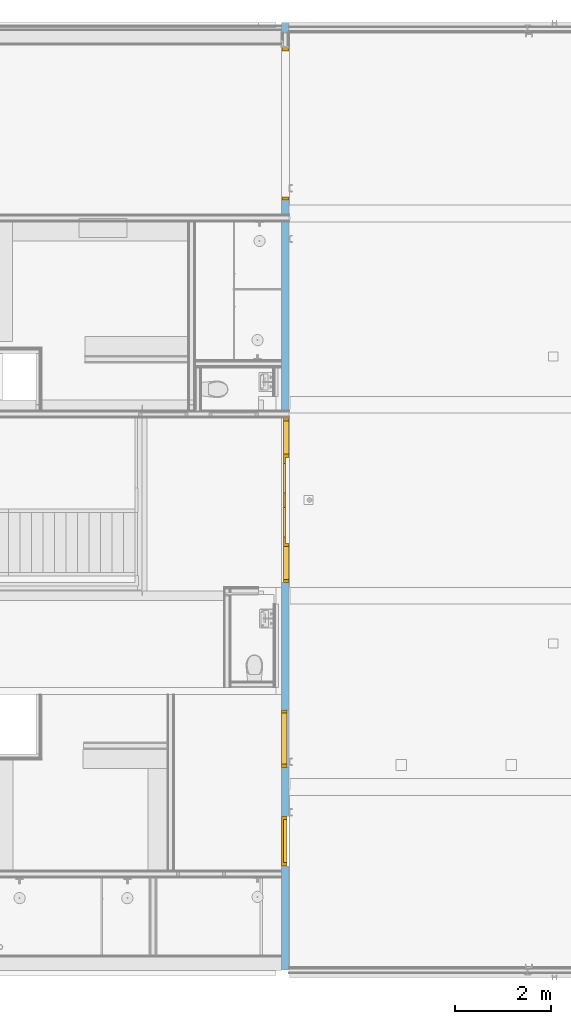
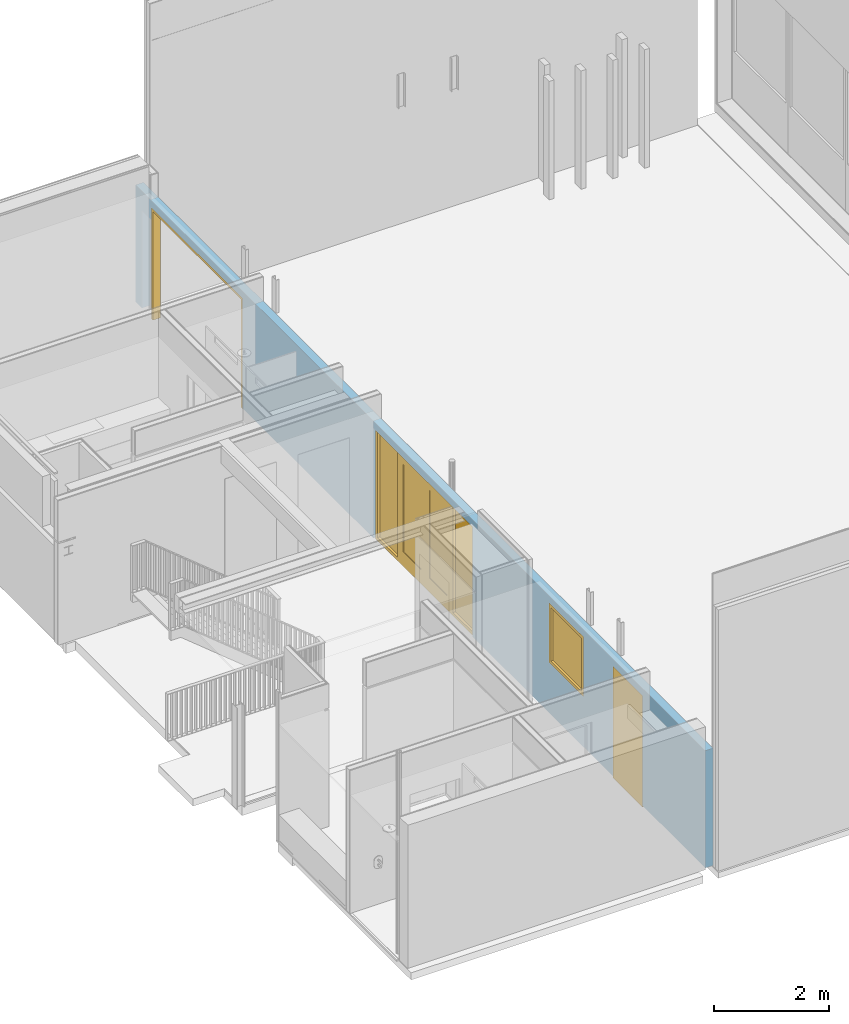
# One storey, part 8 of 35: 3 doors, 1 window, 5 openings, plus 1 element that does not belong to this part.
"""IFC2X3 building model written with IfcOpenShell, lengths in millimetres."""

from ifc_helpers import new_model, entity, si_unit, converted_unit, derived_unit, money_unit, direction, frame, origin_with_axes, place, context, subcontext, project, spatial, open_shell, faceted_brep, surface_model, material, type_object, element, fill, save


model = new_model("IFC2X3")

# Units and contexts
model_context = context("Model", 3, precision=0.01, world=origin_with_axes(), true_north=direction((0.0, 1.0)))
body_context = subcontext(model_context, "Body", "Model", "MODEL_VIEW")
ifc_project = project(units=[si_unit("LENGTHUNIT", "METRE", prefix="MILLI"), si_unit("AREAUNIT", "SQUARE_METRE"), si_unit("VOLUMEUNIT", "CUBIC_METRE"), converted_unit("PLANEANGLEUNIT", "DEGREE", entity("IfcPlaneAngleMeasure", 0.0174532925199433), si_unit("PLANEANGLEUNIT", "RADIAN"), dimensions=[0, 0, 0, 0, 0, 0, 0]), money_unit("EUR"), converted_unit("TIMEUNIT", "Year", entity("IfcTimeMeasure", 31557600.0), si_unit("TIMEUNIT", "SECOND"), dimensions=[0, 0, 1, 0, 0, 0, 0]), si_unit("MASSUNIT", "GRAM", prefix="KILO"), si_unit("THERMODYNAMICTEMPERATUREUNIT", "DEGREE_CELSIUS"), si_unit("LUMINOUSINTENSITYUNIT", "LUMEN"), si_unit("ENERGYUNIT", "JOULE", prefix="MEGA"), derived_unit("THERMALCONDUCTANCEUNIT", [(si_unit("POWERUNIT", "WATT"), 1), (si_unit("LENGTHUNIT", "METRE"), -1), (si_unit("THERMODYNAMICTEMPERATUREUNIT", "KELVIN"), -1)]), derived_unit("SPECIFICHEATCAPACITYUNIT", [(si_unit("ENERGYUNIT", "JOULE"), 1), (si_unit("MASSUNIT", "GRAM", prefix="KILO"), -1), (si_unit("THERMODYNAMICTEMPERATUREUNIT", "KELVIN"), -1)]), derived_unit("MASSDENSITYUNIT", [(si_unit("MASSUNIT", "GRAM", prefix="KILO"), 1), (si_unit("VOLUMEUNIT", "CUBIC_METRE"), -1)])], contexts=[model_context])

# Site, building, storey
site_placement = place(None, origin_with_axes())
site = spatial("IfcSite", under=ifc_project, at=site_placement, Name="<site naam>", CompositionType="ELEMENT")
building_placement = place(site_placement, origin_with_axes())
building = spatial("IfcBuilding", under=site, at=building_placement, Name="<Naam gebouw>", CompositionType="ELEMENT")
storey_placement = place(building_placement, frame((0.0, 0.0, 6345.0), z_axis=(0.0, 0.0, 1.0), x_axis=(1.0, 0.0, 0.0)))
storey = spatial("IfcBuildingStorey", under=building, at=storey_placement, Name="02 2e tussenverdieping", CompositionType="ELEMENT", Elevation=6345.0)

# Wall, openings, doors, window
ifc_material = material(Name="beton")
wall_type = type_object("IfcWallType", Name="beton 160", PredefinedType="NOTDEFINED")
wall_placement = place(storey_placement, frame((58317.78284470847, 20000.00000000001, 0.0), z_axis=(0.0, 0.0, 1.0), x_axis=(0.0, -1.0, 0.0)))
wall = element("IfcWall", 1, at=wall_placement, inside=storey, type_object=wall_type, material=ifc_material, Name="22_Binnenwand_beton", context=body_context, shape_type="Brep", body=[
    faceted_brep([(0.0, 0.0, 2517.500000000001), (19825.0, 0.0, 2517.500000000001), (19825.0, 0.0, 30.00000000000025), (0.0, 0.0, 30.00000000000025), (0.0, -159.9999999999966, 2517.500000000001), (19825.0, -160.0000000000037, 2517.500000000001), (19825.0, -160.0000000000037, 30.00000000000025), (0.0, -159.9999999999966, 30.00000000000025)], [[[0, 1, 2, 3]], [[4, 5, 1, 0]], [[1, 5, 6, 2]], [[2, 6, 7, 3]], [[4, 0, 3, 7]], [[5, 4, 7, 6]]]),
])
opening_1_placement = place(wall_placement, frame((14989.99999999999, 0.0, 1100.0), z_axis=(0.0, 0.0, 1.0), x_axis=(1.0, 0.0, 0.0)))
opening_1 = element("IfcOpeningElement", 2, at=opening_1_placement, cuts=wall, Name="22_BI-E-21_305", context=body_context, shape_type="Brep", body=[
    faceted_brep([(599.9999999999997, 1.000000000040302, 1267.0), (599.9999999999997, 1.000000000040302, 0.0), (-599.9999999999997, 1.000000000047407, 0.0), (-599.9999999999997, 1.000000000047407, 1267.0), (599.9999999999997, -161.0000000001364, 1267.0), (599.9999999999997, -161.0000000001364, 0.0), (-599.9999999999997, -161.0000000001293, 0.0), (-599.9999999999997, -161.0000000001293, 1267.0)], [[[0, 1, 2, 3]], [[4, 5, 1, 0]], [[5, 6, 2, 1]], [[6, 7, 3, 2]], [[7, 4, 0, 3]], [[6, 5, 4, 7]]]),
])
opening_2_placement = place(wall_placement, frame((9999.999999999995, 0.0, 0.0), z_axis=(0.0, 0.0, 1.0), x_axis=(1.0, 0.0, 0.0)))
opening_2 = element("IfcOpeningElement", 3, at=opening_2_placement, cuts=wall, Name="22_BI-D-05_305", context=body_context, shape_type="Brep", body=[
    faceted_brep([(-1724.999999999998, -160.9999999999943, 2367.0), (-1724.999999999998, -160.9999999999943, 0.0), (1724.999999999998, -160.9999999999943, 0.0), (1724.999999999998, -160.9999999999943, 2367.0), (-1724.999999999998, 0.9999999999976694, 2367.0), (-1724.999999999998, 0.9999999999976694, 0.0), (1724.999999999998, 0.9999999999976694, 0.0), (1724.999999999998, 0.9999999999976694, 2367.0)], [[[0, 1, 2, 3]], [[4, 5, 1, 0]], [[5, 6, 2, 1]], [[6, 7, 3, 2]], [[7, 4, 0, 3]], [[6, 5, 4, 7]]]),
])
opening_3_placement = place(wall_placement, frame((1968.213274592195, 0.0, 0.0), z_axis=(0.0, 0.0, 1.0), x_axis=(1.0, 0.0, 0.0)))
element("IfcOpeningElement", 4, at=opening_3_placement, cuts=wall, Name="22__305", context=body_context, shape_type="Brep", body=[
    faceted_brep([(-1750.0, -160.9999999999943, 2100.0), (-1750.0, -160.9999999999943, 0.0), (1750.0, -161.0000000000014, 0.0), (1750.0, -161.0000000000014, 2100.0), (-1750.0, 1.000000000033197, 2100.0), (-1750.0, 1.000000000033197, 0.0), (1750.0, 1.000000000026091, 0.0), (1750.0, 1.000000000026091, 2100.0)], [[[0, 1, 2, 3]], [[4, 5, 1, 0]], [[5, 6, 2, 1]], [[6, 7, 3, 2]], [[7, 4, 0, 3]], [[6, 5, 4, 7]]]),
])
opening_4_placement = place(wall_placement, frame((17133.0, 0.0, 0.0), z_axis=(0.0, 0.0, 1.0), x_axis=(1.0, 0.0, 0.0)))
opening_4 = element("IfcOpeningElement", 5, at=opening_4_placement, cuts=wall, Name="22_BI-A-05_305", context=body_context, shape_type="Brep", body=[
    faceted_brep([(516.9999999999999, 1.000000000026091, 2367.0), (516.9999999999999, 1.000000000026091, 0.0), (-516.9999999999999, 1.000000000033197, 0.0), (-516.9999999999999, 1.000000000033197, 2367.0), (516.9999999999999, -161.0000000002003, 2367.0), (516.9999999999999, -161.0000000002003, 0.0), (-516.9999999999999, -161.0000000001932, 0.0), (-516.9999999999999, -161.0000000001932, 2367.0)], [[[0, 1, 2, 3]], [[4, 5, 1, 0]], [[5, 6, 2, 1]], [[6, 7, 3, 2]], [[7, 4, 0, 3]], [[6, 5, 4, 7]]]),
])
opening_5_placement = place(wall_placement, frame((2124.106706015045, 0.0, 0.0), z_axis=(0.0, 0.0, 1.0), x_axis=(1.0, 0.0, 0.0)))
opening_5 = element("IfcOpeningElement", 6, at=opening_5_placement, cuts=wall, Name="22_BI-H-03_305", context=body_context, shape_type="Brep", body=[
    faceted_brep([(-1594.10656857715, -160.9999999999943, 2367.0), (-1594.10656857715, -160.9999999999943, 0.0), (1594.10656857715, -161.0000000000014, 0.0), (1594.10656857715, -161.0000000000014, 2367.0), (-1594.10656857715, 0.9999999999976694, 2367.0), (-1594.10656857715, 0.9999999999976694, 0.0), (1594.10656857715, 0.999999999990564, 0.0), (1594.10656857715, 0.999999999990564, 2367.0)], [[[0, 1, 2, 3]], [[4, 5, 1, 0]], [[5, 6, 2, 1]], [[6, 7, 3, 2]], [[7, 4, 0, 3]], [[6, 5, 4, 7]]]),
])
door_style_1 = type_object("IfcDoorStyle", Name="D1 27", ConstructionType="NOTDEFINED", OperationType="NOTDEFINED", ParameterTakesPrecedence=False, Sizeable=False)
door_1_placement = place(opening_5_placement, frame((-1527.10656857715, 0.0, 0.0), z_axis=(0.0, 0.0, 1.0), x_axis=(1.0, 0.0, 0.0)))
door_1 = element("IfcDoor", 7, at=door_1_placement, inside=storey, type_object=door_style_1, Name="22_BI-H-03_305", ObjectType="DOOR", OverallHeight=2367.0, OverallWidth=3188.21, context=body_context, shape_type="Brep", body=[
    faceted_brep([(3121.2131371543, 0.0, 0.0), (3121.2131371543, -149.9999999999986, 0.0), (3054.213137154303, -149.9999999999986, 0.0), (3054.213137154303, 0.0, 0.0), (3121.2131371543, 0.0, 2300.0), (3121.2131371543, -149.9999999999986, 2300.0), (3054.213137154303, -149.9999999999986, 2300.0), (3054.213137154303, 0.0, 2300.0)], [[[0, 1, 2, 3]], [[4, 5, 1, 0]], [[1, 5, 6, 2]], [[3, 2, 6, 7]], [[0, 3, 7, 4]], [[7, 6, 5, 4]]]),
    faceted_brep([(-67.00000000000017, 0.0, 0.0), (-67.00000000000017, -149.9999999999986, 0.0), (-67.00000000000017, -149.9999999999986, 2300.0), (-67.00000000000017, 0.0, 2300.0), (0.0, 0.0, 0.0), (0.0, -149.9999999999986, 0.0), (0.0, -149.9999999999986, 2300.0), (0.0, 0.0, 2300.0)], [[[0, 1, 2, 3]], [[4, 5, 1, 0]], [[1, 5, 6, 2]], [[3, 2, 6, 7]], [[0, 3, 7, 4]], [[7, 6, 5, 4]]]),
    faceted_brep([(3121.2131371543, 0.0, 2367.0), (3121.2131371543, -149.9999999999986, 2367.0), (3121.2131371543, -149.9999999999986, 2300.0), (3121.2131371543, 0.0, 2300.0), (-67.00000000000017, 0.0, 2367.0), (-67.00000000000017, -149.9999999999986, 2367.0), (-67.00000000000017, -149.9999999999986, 2300.0), (0.0, -149.9999999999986, 2300.0), (3054.213137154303, -149.9999999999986, 2300.0), (3054.213137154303, 0.0, 2300.0), (0.0, 0.0, 2300.0), (-67.00000000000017, 0.0, 2300.0)], [[[0, 1, 2, 3]], [[4, 5, 1, 0]], [[1, 5, 6, 7, 8, 2]], [[3, 2, 8, 9]], [[0, 3, 9, 10, 11, 4]], [[11, 6, 5, 4]], [[10, 7, 6, 11]], [[9, 8, 7, 10]]]),
])
fill(opening_5, door_1)
window_style = type_object("IfcWindowStyle", Name="R1 27", ConstructionType="NOTDEFINED", OperationType="SINGLE_PANEL", ParameterTakesPrecedence=False, Sizeable=False)
window_placement = place(opening_1_placement, frame((599.9999999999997, 0.0, 0.0), z_axis=(0.0, 0.0, 1.0), x_axis=(-1.0, 0.0, 0.0)))
window = element("IfcWindow", 8, at=window_placement, inside=storey, type_object=window_style, Name="22_BI-E-21_305", ObjectType="WINDOW", OverallHeight=1267.0, OverallWidth=1200.0, context=body_context, shape_type="SurfaceModel", body=[
    faceted_brep([(67.00000000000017, 45.99999999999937, 1199.999999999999), (67.00000000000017, 159.9999999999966, 1199.999999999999), (0.0, 159.9999999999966, 1199.999999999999), (0.0, 45.99999999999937, 1199.999999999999), (67.00000000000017, 45.99999999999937, 67.00000000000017), (67.00000000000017, 159.9999999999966, 67.00000000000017), (0.0, 159.9999999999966, 67.00000000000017), (0.0, 45.99999999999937, 67.00000000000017)], [[[0, 1, 2, 3]], [[4, 5, 1, 0]], [[1, 5, 6, 2]], [[3, 2, 6, 7]], [[0, 3, 7, 4]], [[7, 6, 5, 4]]]),
    faceted_brep([(1132.999999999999, 45.99999999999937, 67.00000000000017), (1132.999999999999, 159.9999999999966, 67.00000000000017), (1199.999999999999, 159.9999999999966, 67.00000000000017), (1199.999999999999, 45.99999999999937, 67.00000000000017), (1132.999999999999, 45.99999999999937, 1199.999999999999), (1132.999999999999, 159.9999999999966, 1199.999999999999), (1199.999999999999, 159.9999999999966, 1199.999999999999), (1199.999999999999, 45.99999999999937, 1199.999999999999)], [[[0, 1, 2, 3]], [[4, 5, 1, 0]], [[1, 5, 6, 2]], [[3, 2, 6, 7]], [[0, 3, 7, 4]], [[7, 6, 5, 4]]]),
    faceted_brep([(67.00000000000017, 45.99999999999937, 67.00000000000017), (67.00000000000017, 159.9999999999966, 67.00000000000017), (0.0, 159.9999999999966, 67.00000000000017), (0.0, 45.99999999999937, 67.00000000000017), (1132.999999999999, 45.99999999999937, 67.00000000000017), (1132.999999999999, 159.9999999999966, 67.00000000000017), (1199.999999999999, 159.9999999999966, 67.00000000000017), (1199.999999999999, 159.9999999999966, 0.0), (0.0, 159.9999999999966, 0.0), (0.0, 45.99999999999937, 0.0), (1199.999999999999, 45.99999999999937, 0.0), (1199.999999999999, 45.99999999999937, 67.00000000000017)], [[[0, 1, 2, 3]], [[4, 5, 1, 0]], [[1, 5, 6, 7, 8, 2]], [[3, 2, 8, 9]], [[0, 3, 9, 10, 11, 4]], [[11, 6, 5, 4]], [[10, 7, 6, 11]], [[9, 8, 7, 10]]]),
    faceted_brep([(1132.999999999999, 45.99999999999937, 1199.999999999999), (1132.999999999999, 159.9999999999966, 1199.999999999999), (1199.999999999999, 159.9999999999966, 1199.999999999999), (1199.999999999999, 45.99999999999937, 1199.999999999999), (67.00000000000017, 45.99999999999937, 1199.999999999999), (67.00000000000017, 159.9999999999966, 1199.999999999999), (0.0, 159.9999999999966, 1199.999999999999), (0.0, 159.9999999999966, 1267.0), (1199.999999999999, 159.9999999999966, 1267.0), (1199.999999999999, 45.99999999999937, 1267.0), (0.0, 45.99999999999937, 1267.0), (0.0, 45.99999999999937, 1199.999999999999)], [[[0, 1, 2, 3]], [[4, 5, 1, 0]], [[1, 5, 6, 7, 8, 2]], [[3, 2, 8, 9]], [[0, 3, 9, 10, 11, 4]], [[11, 6, 5, 4]], [[10, 7, 6, 11]], [[9, 8, 7, 10]]]),
    surface_model("IfcShellBasedSurfaceModel", [(67.00000000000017, 95.99999999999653, 67.00000000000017), (1132.999999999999, 95.99999999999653, 67.00000000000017), (1132.999999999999, 95.99999999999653, 1199.999999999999), (67.00000000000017, 95.99999999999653, 1199.999999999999)], [open_shell([[[0, 1, 2, 3]]])]),
    surface_model("IfcShellBasedSurfaceModel", [(67.00000000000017, 115.9999999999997, 67.00000000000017), (67.00000000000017, 115.9999999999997, 1199.999999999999), (1132.999999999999, 115.9999999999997, 1199.999999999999), (1132.999999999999, 115.9999999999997, 67.00000000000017)], [open_shell([[[0, 1, 2, 3]]])]),
])
fill(opening_1, window)
door_style_2 = type_object("IfcDoorStyle", Name="D2 zl2 27", ConstructionType="NOTDEFINED", OperationType="USERDEFINED", ParameterTakesPrecedence=False, Sizeable=False)
door_2_placement = place(opening_2_placement, frame((1724.999999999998, 0.0, 0.0), z_axis=(0.0, 0.0, 1.0), x_axis=(-1.0, 0.0, 0.0)))
door_2 = element("IfcDoor", 9, at=door_2_placement, inside=storey, type_object=door_style_2, Name="22_BI-D-05_305", ObjectType="DOOR", OverallHeight=2367.0, OverallWidth=3450.0, context=body_context, shape_type="SurfaceModel", body=[
    faceted_brep([(0.0, 113.9999999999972, 0.0), (67.00000000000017, 113.9999999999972, 0.0), (67.00000000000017, 0.0, 0.0), (0.0, 0.0, 0.0), (0.0, 113.9999999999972, 2300.0), (67.00000000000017, 113.9999999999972, 2300.0), (67.00000000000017, 113.9999999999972, 67.00000000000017), (67.00000000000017, 0.0, 67.00000000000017), (67.00000000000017, 0.0, 2300.0), (0.0, 0.0, 2300.0)], [[[0, 1, 2, 3]], [[0, 4, 5, 6, 1]], [[1, 6, 7, 2]], [[3, 2, 7, 8, 9]], [[4, 0, 3, 9]], [[5, 4, 9, 8]], [[6, 5, 8, 7]]]),
    faceted_brep([(824.9999999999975, 73.99999999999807, 0.0), (824.9999999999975, 73.99999999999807, 2300.0), (824.9999999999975, 0.0, 2300.0), (824.9999999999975, 0.0, 0.0), (807.9999999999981, 73.99999999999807, 2300.0), (807.9999999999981, 73.99999999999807, 0.0), (807.9999999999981, 113.9999999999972, 2300.0), (757.9999999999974, 113.9999999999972, 2300.0), (757.9999999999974, 0.0, 2300.0), (757.9999999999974, 0.0, 0.0), (757.9999999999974, 0.0, 67.00000000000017), (757.9999999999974, 113.9999999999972, 0.0), (807.9999999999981, 113.9999999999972, 0.0), (757.9999999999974, 113.9999999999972, 67.00000000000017)], [[[0, 1, 2, 3]], [[4, 1, 0, 5]], [[4, 6, 7, 8, 2, 1]], [[9, 3, 2, 8, 10]], [[5, 0, 3, 9, 11, 12]], [[6, 4, 5, 12]], [[6, 12, 11, 13, 7]], [[13, 10, 8, 7]], [[11, 9, 10, 13]]]),
    faceted_brep([(67.00000000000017, 113.9999999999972, 67.00000000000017), (67.00000000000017, 113.9999999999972, 0.0), (67.00000000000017, 0.0, 0.0), (67.00000000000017, 0.0, 67.00000000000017), (757.9999999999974, 113.9999999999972, 67.00000000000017), (757.9999999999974, 113.9999999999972, 0.0), (757.9999999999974, 0.0, 0.0), (757.9999999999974, 0.0, 67.00000000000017)], [[[0, 1, 2, 3]], [[0, 4, 5, 1]], [[1, 5, 6, 2]], [[3, 2, 6, 7]], [[4, 0, 3, 7]], [[5, 4, 7, 6]]]),
    faceted_brep([(3449.999999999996, 113.9999999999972, 0.0), (3449.999999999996, 113.9999999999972, 2300.0), (3449.999999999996, 0.0, 2300.0), (3449.999999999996, 0.0, 0.0), (3382.999999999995, 113.9999999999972, 0.0), (3382.999999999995, 113.9999999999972, 67.00000000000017), (3382.999999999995, 113.9999999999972, 2300.0), (3382.999999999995, 0.0, 2300.0), (3382.999999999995, 0.0, 67.00000000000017), (3382.999999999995, 0.0, 0.0)], [[[0, 1, 2, 3]], [[0, 4, 5, 6, 1]], [[1, 6, 7, 2]], [[3, 2, 7, 8, 9]], [[4, 0, 3, 9]], [[5, 4, 9, 8]], [[6, 5, 8, 7]]]),
    faceted_brep([(2641.999999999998, 73.99999999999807, 2300.0), (2624.999999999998, 73.99999999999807, 2300.0), (2624.999999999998, 0.0, 2300.0), (2691.999999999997, 0.0, 2300.0), (2691.999999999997, 113.9999999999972, 2300.0), (2641.999999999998, 113.9999999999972, 2300.0), (2641.999999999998, 73.99999999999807, 0.0), (2624.999999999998, 73.99999999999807, 0.0), (2624.999999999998, 0.0, 0.0), (2691.999999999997, 0.0, 0.0), (2691.999999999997, 0.0, 67.00000000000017), (2691.999999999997, 113.9999999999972, 67.00000000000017), (2641.999999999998, 113.9999999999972, 0.0), (2691.999999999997, 113.9999999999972, 0.0)], [[[0, 1, 2, 3, 4, 5]], [[1, 0, 6, 7]], [[1, 7, 8, 2]], [[8, 9, 10, 3, 2]], [[4, 3, 10, 11]], [[12, 5, 4, 11, 13]], [[0, 5, 12, 6]], [[6, 12, 13, 9, 8, 7]], [[11, 10, 9, 13]]]),
    faceted_brep([(2691.999999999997, 113.9999999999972, 67.00000000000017), (2691.999999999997, 113.9999999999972, 0.0), (2691.999999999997, 0.0, 0.0), (2691.999999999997, 0.0, 67.00000000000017), (3382.999999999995, 113.9999999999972, 67.00000000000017), (3382.999999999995, 113.9999999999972, 0.0), (3382.999999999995, 0.0, 0.0), (3382.999999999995, 0.0, 67.00000000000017)], [[[0, 1, 2, 3]], [[0, 4, 5, 1]], [[1, 5, 6, 2]], [[3, 2, 6, 7]], [[4, 0, 3, 7]], [[5, 4, 7, 6]]]),
    faceted_brep([(807.9999999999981, 113.9999999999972, 2316.999999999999), (807.9999999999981, 113.9999999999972, 2300.0), (757.9999999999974, 113.9999999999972, 2300.0), (67.00000000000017, 113.9999999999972, 2300.0), (0.0, 113.9999999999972, 2300.0), (0.0, 113.9999999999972, 2367.0), (3449.999999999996, 113.9999999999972, 2367.0), (3449.999999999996, 113.9999999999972, 2300.0), (3382.999999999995, 113.9999999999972, 2300.0), (2691.999999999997, 113.9999999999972, 2300.0), (2641.999999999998, 113.9999999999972, 2300.0), (2641.999999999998, 113.9999999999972, 2316.999999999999), (807.9999999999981, 73.99999999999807, 2316.999999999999), (807.9999999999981, 73.99999999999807, 2300.0), (2624.999999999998, 73.99999999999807, 2300.0), (2624.999999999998, 0.0, 2300.0), (824.9999999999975, 0.0, 2300.0), (757.9999999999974, 0.0, 2300.0), (67.00000000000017, 0.0, 2300.0), (0.0, 0.0, 2300.0), (0.0, 0.0, 2367.0), (3449.999999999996, 0.0, 2367.0), (3449.999999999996, 0.0, 2300.0), (3382.999999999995, 0.0, 2300.0), (2641.999999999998, 73.99999999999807, 2300.0), (2691.999999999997, 0.0, 2300.0), (2641.999999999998, 73.99999999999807, 2316.999999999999)], [[[0, 1, 2, 3, 4, 5, 6, 7, 8, 9, 10, 11]], [[1, 0, 12, 13]], [[13, 14, 15, 16, 17, 2, 1]], [[2, 17, 18, 3]], [[3, 18, 19, 4]], [[4, 19, 20, 5]], [[5, 20, 21, 6]], [[6, 21, 22, 7]], [[7, 22, 23, 8]], [[24, 10, 9, 8, 23, 25, 15, 14]], [[11, 10, 24, 26]], [[0, 11, 26, 12]], [[24, 14, 13, 12, 26]], [[23, 22, 21, 20, 19, 18, 17, 16, 15, 25]]]),
    faceted_brep([(2641.999999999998, 113.9999999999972, 299.9999999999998), (2641.999999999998, 73.99999999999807, 299.9999999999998), (2491.999999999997, 73.99999999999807, 299.9999999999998), (2491.999999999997, 113.9999999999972, 299.9999999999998), (2641.999999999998, 113.9999999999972, 2167.000000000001), (2641.999999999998, 73.99999999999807, 2167.000000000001), (2491.999999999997, 73.99999999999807, 2167.000000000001), (2491.999999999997, 113.9999999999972, 2167.000000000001)], [[[0, 1, 2, 3]], [[4, 5, 1, 0]], [[1, 5, 6, 2]], [[3, 2, 6, 7]], [[0, 3, 7, 4]], [[7, 6, 5, 4]]]),
    faceted_brep([(1724.999999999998, 113.9999999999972, 299.9999999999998), (1724.999999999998, 73.99999999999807, 299.9999999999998), (1724.999999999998, 73.99999999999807, 2167.000000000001), (1724.999999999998, 113.9999999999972, 2167.000000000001), (1874.999999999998, 113.9999999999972, 299.9999999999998), (1874.999999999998, 73.99999999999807, 299.9999999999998), (1874.999999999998, 73.99999999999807, 2167.000000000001), (1874.999999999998, 113.9999999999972, 2167.000000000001)], [[[0, 1, 2, 3]], [[4, 5, 1, 0]], [[1, 5, 6, 2]], [[3, 2, 6, 7]], [[0, 3, 7, 4]], [[7, 6, 5, 4]]]),
    faceted_brep([(2641.999999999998, 113.9999999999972, 0.0), (2641.999999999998, 73.99999999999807, 0.0), (1724.999999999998, 73.99999999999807, 0.0), (1724.999999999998, 113.9999999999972, 0.0), (2641.999999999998, 113.9999999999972, 299.9999999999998), (2641.999999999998, 73.99999999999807, 299.9999999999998), (2491.999999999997, 73.99999999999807, 299.9999999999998), (1874.999999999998, 73.99999999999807, 299.9999999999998), (1724.999999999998, 73.99999999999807, 299.9999999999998), (1724.999999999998, 113.9999999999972, 299.9999999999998), (1874.999999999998, 113.9999999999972, 299.9999999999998), (2491.999999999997, 113.9999999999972, 299.9999999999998)], [[[0, 1, 2, 3]], [[4, 5, 1, 0]], [[1, 5, 6, 7, 8, 2]], [[3, 2, 8, 9]], [[0, 3, 9, 10, 11, 4]], [[11, 6, 5, 4]], [[10, 7, 6, 11]], [[9, 8, 7, 10]]]),
    faceted_brep([(2641.999999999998, 113.9999999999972, 2316.999999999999), (2641.999999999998, 73.99999999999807, 2316.999999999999), (2641.999999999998, 73.99999999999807, 2167.000000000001), (2641.999999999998, 113.9999999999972, 2167.000000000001), (1724.999999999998, 113.9999999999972, 2316.999999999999), (1724.999999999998, 73.99999999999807, 2316.999999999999), (1724.999999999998, 73.99999999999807, 2167.000000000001), (1874.999999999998, 73.99999999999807, 2167.000000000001), (2491.999999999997, 73.99999999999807, 2167.000000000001), (2491.999999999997, 113.9999999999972, 2167.000000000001), (1874.999999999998, 113.9999999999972, 2167.000000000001), (1724.999999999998, 113.9999999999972, 2167.000000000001)], [[[0, 1, 2, 3]], [[4, 5, 1, 0]], [[1, 5, 6, 7, 8, 2]], [[3, 2, 8, 9]], [[0, 3, 9, 10, 11, 4]], [[11, 6, 5, 4]], [[10, 7, 6, 11]], [[9, 8, 7, 10]]]),
    surface_model("IfcShellBasedSurfaceModel", [(2491.999999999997, 99.99999999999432, 299.9999999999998), (1874.999999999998, 99.99999999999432, 299.9999999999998), (1874.999999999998, 99.99999999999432, 2167.000000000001), (2491.999999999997, 99.99999999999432, 2167.000000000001)], [open_shell([[[0, 1, 2, 3]]])]),
    surface_model("IfcShellBasedSurfaceModel", [(2491.999999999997, 87.99999999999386, 299.9999999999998), (2491.999999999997, 87.99999999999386, 2167.000000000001), (1874.999999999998, 87.99999999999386, 2167.000000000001), (1874.999999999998, 87.99999999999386, 299.9999999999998)], [open_shell([[[0, 1, 2, 3]]])]),
    faceted_brep([(807.9999999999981, 113.9999999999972, 299.9999999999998), (957.9999999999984, 113.9999999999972, 299.9999999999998), (957.9999999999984, 73.99999999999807, 299.9999999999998), (807.9999999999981, 73.99999999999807, 299.9999999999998), (807.9999999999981, 113.9999999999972, 2167.000000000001), (957.9999999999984, 113.9999999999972, 2167.000000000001), (957.9999999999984, 73.99999999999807, 2167.000000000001), (807.9999999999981, 73.99999999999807, 2167.000000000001)], [[[0, 1, 2, 3]], [[0, 4, 5, 1]], [[1, 5, 6, 2]], [[3, 2, 6, 7]], [[4, 0, 3, 7]], [[5, 4, 7, 6]]]),
    faceted_brep([(1724.999999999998, 113.9999999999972, 299.9999999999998), (1724.999999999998, 113.9999999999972, 2167.000000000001), (1724.999999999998, 73.99999999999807, 2167.000000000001), (1724.999999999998, 73.99999999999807, 299.9999999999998), (1574.999999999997, 113.9999999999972, 299.9999999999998), (1574.999999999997, 113.9999999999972, 2167.000000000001), (1574.999999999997, 73.99999999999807, 2167.000000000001), (1574.999999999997, 73.99999999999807, 299.9999999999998)], [[[0, 1, 2, 3]], [[0, 4, 5, 1]], [[1, 5, 6, 2]], [[3, 2, 6, 7]], [[4, 0, 3, 7]], [[5, 4, 7, 6]]]),
    faceted_brep([(807.9999999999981, 113.9999999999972, 0.0), (1724.999999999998, 113.9999999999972, 0.0), (1724.999999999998, 73.99999999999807, 0.0), (807.9999999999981, 73.99999999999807, 0.0), (807.9999999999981, 113.9999999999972, 299.9999999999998), (957.9999999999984, 113.9999999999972, 299.9999999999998), (1574.999999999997, 113.9999999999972, 299.9999999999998), (1724.999999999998, 113.9999999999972, 299.9999999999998), (1724.999999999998, 73.99999999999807, 299.9999999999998), (1574.999999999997, 73.99999999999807, 299.9999999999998), (957.9999999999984, 73.99999999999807, 299.9999999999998), (807.9999999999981, 73.99999999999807, 299.9999999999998)], [[[0, 1, 2, 3]], [[0, 4, 5, 6, 7, 1]], [[1, 7, 8, 2]], [[3, 2, 8, 9, 10, 11]], [[4, 0, 3, 11]], [[5, 4, 11, 10]], [[6, 5, 10, 9]], [[7, 6, 9, 8]]]),
    faceted_brep([(807.9999999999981, 113.9999999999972, 2316.999999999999), (807.9999999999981, 113.9999999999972, 2167.000000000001), (807.9999999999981, 73.99999999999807, 2167.000000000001), (807.9999999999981, 73.99999999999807, 2316.999999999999), (1724.999999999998, 113.9999999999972, 2316.999999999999), (1724.999999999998, 113.9999999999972, 2167.000000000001), (1574.999999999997, 113.9999999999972, 2167.000000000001), (957.9999999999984, 113.9999999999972, 2167.000000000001), (957.9999999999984, 73.99999999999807, 2167.000000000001), (1574.999999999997, 73.99999999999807, 2167.000000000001), (1724.999999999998, 73.99999999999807, 2167.000000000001), (1724.999999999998, 73.99999999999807, 2316.999999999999)], [[[0, 1, 2, 3]], [[0, 4, 5, 6, 7, 1]], [[1, 7, 8, 2]], [[3, 2, 8, 9, 10, 11]], [[4, 0, 3, 11]], [[5, 4, 11, 10]], [[6, 5, 10, 9]], [[7, 6, 9, 8]]]),
    surface_model("IfcShellBasedSurfaceModel", [(957.9999999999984, 99.99999999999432, 299.9999999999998), (957.9999999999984, 99.99999999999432, 2167.000000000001), (1574.999999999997, 99.99999999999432, 2167.000000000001), (1574.999999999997, 99.99999999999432, 299.9999999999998)], [open_shell([[[0, 1, 2, 3]]])]),
    surface_model("IfcShellBasedSurfaceModel", [(957.9999999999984, 88.00000000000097, 299.9999999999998), (1574.999999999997, 87.99999999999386, 299.9999999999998), (1574.999999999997, 87.99999999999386, 2167.000000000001), (957.9999999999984, 87.99999999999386, 2167.000000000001)], [open_shell([[[0, 1, 2, 3]]])]),
    surface_model("IfcShellBasedSurfaceModel", [(67.00000000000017, 53.99999999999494, 67.00000000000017), (757.9999999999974, 53.99999999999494, 67.00000000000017), (757.9999999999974, 53.99999999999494, 2300.0), (67.00000000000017, 53.99999999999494, 2300.0)], [open_shell([[[0, 1, 2, 3]]])]),
    surface_model("IfcShellBasedSurfaceModel", [(67.00000000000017, 65.9999999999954, 67.00000000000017), (67.00000000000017, 65.9999999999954, 2300.0), (757.9999999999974, 65.9999999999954, 2300.0), (757.9999999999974, 65.9999999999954, 67.00000000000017)], [open_shell([[[0, 1, 2, 3]]])]),
    surface_model("IfcShellBasedSurfaceModel", [(2691.999999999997, 53.99999999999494, 67.00000000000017), (3382.999999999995, 53.99999999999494, 67.00000000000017), (3382.999999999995, 53.99999999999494, 2300.0), (2691.999999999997, 53.99999999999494, 2300.0)], [open_shell([[[0, 1, 2, 3]]])]),
    surface_model("IfcShellBasedSurfaceModel", [(2691.999999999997, 65.9999999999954, 67.00000000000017), (2691.999999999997, 65.9999999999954, 2300.0), (3382.999999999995, 65.9999999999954, 2300.0), (3382.999999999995, 65.9999999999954, 67.00000000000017)], [open_shell([[[0, 1, 2, 3]]])]),
])
fill(opening_2, door_2)
door_style_3 = type_object("IfcDoorStyle", Name="D1 27", ConstructionType="NOTDEFINED", OperationType="SINGLE_SWING_LEFT", ParameterTakesPrecedence=False, Sizeable=False)
door_3_placement = place(opening_4_placement, frame((450.0000000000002, 0.0, 0.0), z_axis=(0.0, 0.0, 1.0), x_axis=(-1.0, 0.0, 0.0)))
door_3 = element("IfcDoor", 10, at=door_3_placement, inside=storey, type_object=door_style_3, Name="22_BI-A-05_305", ObjectType="DOOR", OverallHeight=2367.0, OverallWidth=1034.0, context=body_context, shape_type="Brep", body=[
    faceted_brep([(-16.9999999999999, 119.9999999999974, 0.0), (0.0, 119.9999999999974, 0.0), (0.0, 119.9999999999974, 11.99999999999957), (-16.9999999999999, 119.9999999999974, 11.99999999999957), (917.0000000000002, 119.9999999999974, 0.0), (900.0000000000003, 119.9999999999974, 0.0), (900.0000000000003, 45.99999999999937, 0.0), (0.0, 45.99999999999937, 0.0), (0.0, 45.99999999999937, 11.99999999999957), (900.0000000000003, 45.99999999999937, 11.99999999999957), (900.0000000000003, 119.9999999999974, 11.99999999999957), (917.0000000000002, 119.9999999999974, 11.99999999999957)], [[[0, 1, 2, 3]], [[0, 4, 5, 6, 7, 1]], [[1, 7, 8, 2]], [[3, 2, 8, 9, 10, 11]], [[4, 0, 3, 11]], [[5, 4, 11, 10]], [[6, 5, 10, 9]], [[7, 6, 9, 8]]]),
    faceted_brep([(899.9999999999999, 119.9999999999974, 0.0), (900.0000000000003, 45.99999999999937, 0.0), (900.0000000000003, 45.99999999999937, 2300.0), (900.0000000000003, 119.9999999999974, 2300.0), (917.0000000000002, 119.9999999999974, 0.0), (917.0000000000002, 159.9999999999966, 0.0), (967.0000000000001, 159.9999999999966, 0.0), (967.0000000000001, 45.99999999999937, 0.0), (967.0000000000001, 45.99999999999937, 2300.0), (917.0000000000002, 119.9999999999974, 2300.0), (967.0000000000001, 159.9999999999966, 2300.0), (917.0000000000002, 159.9999999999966, 2300.0)], [[[0, 1, 2, 3]], [[4, 5, 6, 7, 1, 0]], [[1, 7, 8, 2]], [[9, 3, 2, 8, 10, 11]], [[9, 4, 0, 3]], [[11, 5, 4, 9]], [[11, 10, 6, 5]], [[6, 10, 8, 7]]]),
    faceted_brep([(-16.9999999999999, 119.9999999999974, 2300.0), (-16.9999999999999, 159.9999999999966, 2300.0), (-66.99999999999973, 159.9999999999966, 2300.0), (-66.99999999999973, 45.99999999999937, 2300.0), (0.0, 45.99999999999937, 2300.0), (0.0, 119.9999999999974, 2300.0), (-16.9999999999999, 119.9999999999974, 0.0), (-16.9999999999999, 159.9999999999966, 0.0), (-66.99999999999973, 159.9999999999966, 0.0), (-66.99999999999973, 45.99999999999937, 0.0), (0.0, 45.99999999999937, 0.0), (0.0, 119.9999999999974, 0.0)], [[[0, 1, 2, 3, 4, 5]], [[0, 6, 7, 1]], [[7, 8, 2, 1]], [[2, 8, 9, 3]], [[3, 9, 10, 4]], [[5, 4, 10, 11]], [[5, 11, 6, 0]], [[6, 11, 10, 9, 8, 7]]]),
    faceted_brep([(917.0000000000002, 159.9999999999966, 2316.999999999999), (-16.9999999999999, 159.9999999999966, 2316.999999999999), (-16.9999999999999, 159.9999999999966, 2300.0), (-66.99999999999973, 159.9999999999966, 2300.0), (-66.99999999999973, 159.9999999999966, 2367.0), (967.0000000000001, 159.9999999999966, 2367.0), (967.0000000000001, 159.9999999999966, 2300.0), (917.0000000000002, 159.9999999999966, 2300.0), (917.0000000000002, 119.9999999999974, 2316.999999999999), (-16.9999999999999, 119.9999999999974, 2316.999999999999), (-16.9999999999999, 119.9999999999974, 2300.0), (0.0, 119.9999999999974, 2300.0), (0.0, 45.99999999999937, 2300.0), (-66.99999999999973, 45.99999999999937, 2300.0), (-66.99999999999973, 45.99999999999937, 2367.0), (967.0000000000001, 45.99999999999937, 2367.0), (967.0000000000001, 45.99999999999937, 2300.0), (917.0000000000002, 119.9999999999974, 2300.0), (900.0000000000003, 45.99999999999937, 2300.0), (900.0000000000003, 119.9999999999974, 2300.0)], [[[0, 1, 2, 3, 4, 5, 6, 7]], [[0, 8, 9, 1]], [[1, 9, 10, 2]], [[10, 11, 12, 13, 3, 2]], [[4, 3, 13, 14]], [[5, 4, 14, 15]], [[6, 5, 15, 16]], [[17, 7, 6, 16, 18, 19]], [[7, 17, 8, 0]], [[10, 9, 8, 17, 19, 11]], [[19, 18, 12, 11]], [[12, 18, 16, 15, 14, 13]]]),
    faceted_brep([(-16.9999999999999, 159.9999999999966, 0.0), (917.0000000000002, 159.9999999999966, 0.0), (917.0000000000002, 119.9999999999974, 0.0), (-16.9999999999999, 119.9999999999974, 0.0), (-16.9999999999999, 159.9999999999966, 2316.999999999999), (917.0000000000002, 159.9999999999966, 2316.999999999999), (917.0000000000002, 119.9999999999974, 2316.999999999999), (-16.9999999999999, 119.9999999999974, 2316.999999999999)], [[[0, 1, 2, 3]], [[0, 4, 5, 1]], [[1, 5, 6, 2]], [[3, 2, 6, 7]], [[4, 0, 3, 7]], [[5, 4, 7, 6]]]),
])
fill(opening_4, door_3)

save(model, "model.ifc")
